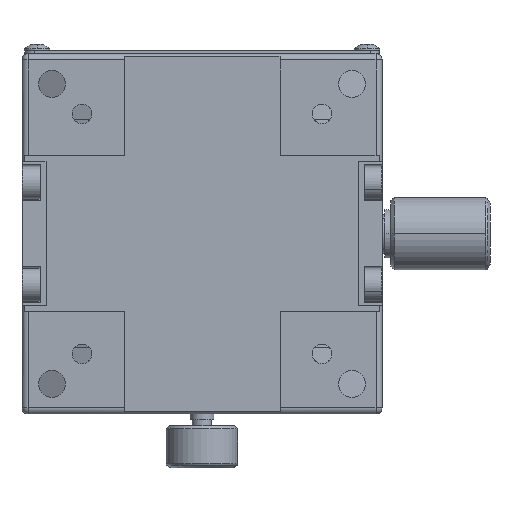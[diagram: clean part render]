
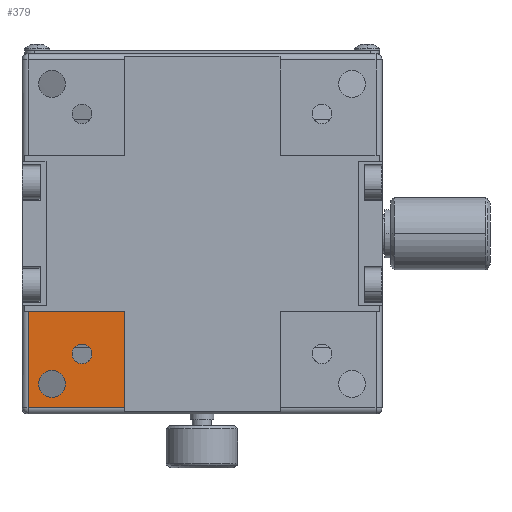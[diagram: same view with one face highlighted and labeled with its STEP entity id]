
A CAD part, front view. The second image highlights one B-rep face of the part: STEP entity #379.
In plain terms, the highlighted planar face has unit normal (0, -1, 0).
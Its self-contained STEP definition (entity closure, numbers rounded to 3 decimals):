
#273 = VERTEX_POINT ( 'NONE', #22644 ) ;
#379 = ADVANCED_FACE ( 'NONE', ( #9364, #8541, #23015 ), #33322, .F. ) ;
#753 = EDGE_CURVE ( 'NONE', #3525, #10831, #5728, .T. ) ;
#1270 = VERTEX_POINT ( 'NONE', #12376 ) ;
#1484 = CARTESIAN_POINT ( 'NONE',  ( -29.797, -5.392, -13. ) ) ;
#1547 = VERTEX_POINT ( 'NONE', #29172 ) ;
#1697 = DIRECTION ( 'NONE',  ( 1., 0., 0. ) ) ;
#1702 = CARTESIAN_POINT ( 'NONE',  ( -12.797, -5.392, -29. ) ) ;
#2314 = CARTESIAN_POINT ( 'NONE',  ( -28.797, -5.392, -13. ) ) ;
#3152 = DIRECTION ( 'NONE',  ( 0., 0., -1. ) ) ;
#3155 = LINE ( 'NONE', #31441, #22832 ) ;
#3525 = VERTEX_POINT ( 'NONE', #21874 ) ;
#3548 = VECTOR ( 'NONE', #1697, 1000. ) ;
#3705 = AXIS2_PLACEMENT_3D ( 'NONE', #21536, #6153, #24114 ) ;
#5028 = AXIS2_PLACEMENT_3D ( 'NONE', #12218, #30172, #14774 ) ;
#5155 = CIRCLE ( 'NONE', #3705, 2.25 ) ;
#5728 = CIRCLE ( 'NONE', #17306, 2.25 ) ;
#6153 = DIRECTION ( 'NONE',  ( 0., 1., 0. ) ) ;
#6501 = EDGE_LOOP ( 'NONE', ( #19528, #28985, #10497, #9679 ) ) ;
#6527 = VECTOR ( 'NONE', #14283, 1000. ) ;
#6635 = CARTESIAN_POINT ( 'NONE',  ( -19.797, -5.392, -21.65 ) ) ;
#6677 = CARTESIAN_POINT ( 'NONE',  ( -24.797, -5.392, -27.25 ) ) ;
#7101 = CIRCLE ( 'NONE', #21212, 1.65 ) ;
#8418 = DIRECTION ( 'NONE',  ( 0., 1., 0. ) ) ;
#8541 = FACE_BOUND ( 'NONE', #28203, .T. ) ;
#8869 = ORIENTED_EDGE ( 'NONE', *, *, #28755, .F. ) ;
#9364 = FACE_BOUND ( 'NONE', #10069, .T. ) ;
#9458 = CARTESIAN_POINT ( 'NONE',  ( -24.797, -5.392, -25. ) ) ;
#9679 = ORIENTED_EDGE ( 'NONE', *, *, #32632, .F. ) ;
#10069 = EDGE_LOOP ( 'NONE', ( #23546, #8869 ) ) ;
#10314 = VERTEX_POINT ( 'NONE', #1702 ) ;
#10497 = ORIENTED_EDGE ( 'NONE', *, *, #27796, .F. ) ;
#10831 = VERTEX_POINT ( 'NONE', #6677 ) ;
#11817 = EDGE_CURVE ( 'NONE', #10831, #3525, #5155, .T. ) ;
#12218 = CARTESIAN_POINT ( 'NONE',  ( -19.797, -5.392, -20. ) ) ;
#12376 = CARTESIAN_POINT ( 'NONE',  ( -12.797, -5.392, -13. ) ) ;
#12962 = VECTOR ( 'NONE', #29796, 1000. ) ;
#13637 = EDGE_CURVE ( 'NONE', #30185, #1547, #22325, .T. ) ;
#14283 = DIRECTION ( 'NONE',  ( 1., 0., 0. ) ) ;
#14774 = DIRECTION ( 'NONE',  ( 0., 0., -1. ) ) ;
#15260 = DIRECTION ( 'NONE',  ( 0., -1., 0. ) ) ;
#15939 = EDGE_CURVE ( 'NONE', #20659, #273, #19785, .T. ) ;
#16590 = ORIENTED_EDGE ( 'NONE', *, *, #753, .T. ) ;
#17306 = AXIS2_PLACEMENT_3D ( 'NONE', #9458, #8418, #30812 ) ;
#19451 = CARTESIAN_POINT ( 'NONE',  ( -28.797, -5.392, 30. ) ) ;
#19528 = ORIENTED_EDGE ( 'NONE', *, *, #15939, .T. ) ;
#19785 = LINE ( 'NONE', #19451, #12962 ) ;
#20659 = VERTEX_POINT ( 'NONE', #2314 ) ;
#21212 = AXIS2_PLACEMENT_3D ( 'NONE', #30644, #15260, #33217 ) ;
#21536 = CARTESIAN_POINT ( 'NONE',  ( -24.797, -5.392, -25. ) ) ;
#21874 = CARTESIAN_POINT ( 'NONE',  ( -24.797, -5.392, -22.75 ) ) ;
#22325 = CIRCLE ( 'NONE', #5028, 1.65 ) ;
#22644 = CARTESIAN_POINT ( 'NONE',  ( -28.797, -5.392, -29. ) ) ;
#22832 = VECTOR ( 'NONE', #3152, 1000. ) ;
#23015 = FACE_OUTER_BOUND ( 'NONE', #6501, .T. ) ;
#23392 = ORIENTED_EDGE ( 'NONE', *, *, #11817, .T. ) ;
#23546 = ORIENTED_EDGE ( 'NONE', *, *, #13637, .F. ) ;
#24114 = DIRECTION ( 'NONE',  ( 0., 0., 1. ) ) ;
#24822 = LINE ( 'NONE', #29973, #3548 ) ;
#24828 = AXIS2_PLACEMENT_3D ( 'NONE', #26051, #29914, #29595 ) ;
#26051 = CARTESIAN_POINT ( 'NONE',  ( -29.797, -5.392, 30. ) ) ;
#27796 = EDGE_CURVE ( 'NONE', #1270, #10314, #3155, .T. ) ;
#28032 = EDGE_CURVE ( 'NONE', #273, #10314, #24822, .T. ) ;
#28203 = EDGE_LOOP ( 'NONE', ( #16590, #23392 ) ) ;
#28755 = EDGE_CURVE ( 'NONE', #1547, #30185, #7101, .T. ) ;
#28985 = ORIENTED_EDGE ( 'NONE', *, *, #28032, .T. ) ;
#29172 = CARTESIAN_POINT ( 'NONE',  ( -19.797, -5.392, -18.35 ) ) ;
#29595 = DIRECTION ( 'NONE',  ( -1., 0., 0. ) ) ;
#29796 = DIRECTION ( 'NONE',  ( 0., 0., -1. ) ) ;
#29914 = DIRECTION ( 'NONE',  ( 0., 1., 0. ) ) ;
#29973 = CARTESIAN_POINT ( 'NONE',  ( -29.797, -5.392, -29. ) ) ;
#30172 = DIRECTION ( 'NONE',  ( 0., -1., 0. ) ) ;
#30185 = VERTEX_POINT ( 'NONE', #6635 ) ;
#30644 = CARTESIAN_POINT ( 'NONE',  ( -19.797, -5.392, -20. ) ) ;
#30812 = DIRECTION ( 'NONE',  ( 0., 0., 1. ) ) ;
#31441 = CARTESIAN_POINT ( 'NONE',  ( -12.797, -5.392, -13. ) ) ;
#32632 = EDGE_CURVE ( 'NONE', #20659, #1270, #33044, .T. ) ;
#33044 = LINE ( 'NONE', #1484, #6527 ) ;
#33217 = DIRECTION ( 'NONE',  ( 0., 0., -1. ) ) ;
#33322 = PLANE ( 'NONE',  #24828 ) ;
